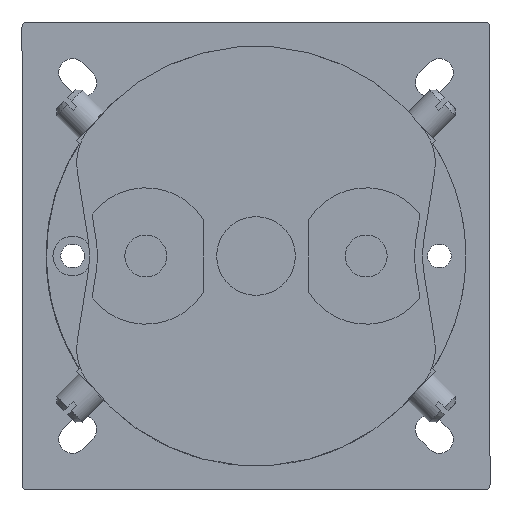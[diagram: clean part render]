
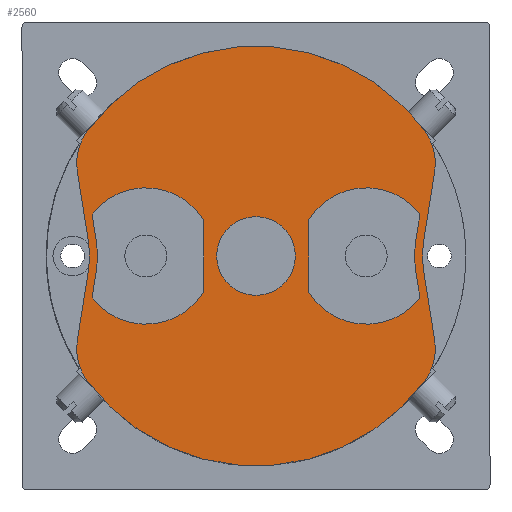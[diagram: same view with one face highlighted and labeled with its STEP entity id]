
A CAD part, front view. The second image highlights one B-rep face of the part: STEP entity #2560.
In plain terms, the highlighted planar face has unit normal (0, -1, 0).
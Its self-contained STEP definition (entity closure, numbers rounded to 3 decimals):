
#1375=FACE_BOUND('',#6776,.T.);
#1376=FACE_BOUND('',#6777,.T.);
#1377=FACE_BOUND('',#6778,.T.);
#1378=FACE_BOUND('',#6779,.T.);
#2560=ADVANCED_FACE('',(#1375,#1376,#1377,#1378),#3767,.T.);
#3767=PLANE('',#28723);
#6776=EDGE_LOOP('',(#13738,#13739,#13740,#13741,#13742,#13743));
#6777=EDGE_LOOP('',(#13744,#13745,#13746,#13747,#13748,#13749));
#6778=EDGE_LOOP('',(#13750,#13751,#13752,#13753,#13754,#13755,#13756,#13757,
#13758,#13759,#13760,#13761));
#6779=EDGE_LOOP('',(#13762));
#7794=CIRCLE('',#28695,7.5);
#7795=CIRCLE('',#28697,13.);
#7796=CIRCLE('',#28700,21.5);
#7797=CIRCLE('',#28703,13.);
#7798=CIRCLE('',#28706,21.5);
#7799=CIRCLE('',#28709,13.);
#7800=CIRCLE('',#28712,13.);
#7801=CIRCLE('',#28715,10.);
#7802=CIRCLE('',#28716,20.);
#7803=CIRCLE('',#28717,10.);
#7804=CIRCLE('',#28718,40.);
#7805=CIRCLE('',#28719,10.);
#7806=CIRCLE('',#28720,20.);
#7807=CIRCLE('',#28721,10.);
#7808=CIRCLE('',#28722,40.);
#13738=ORIENTED_EDGE('',*,*,#20837,.T.);
#13739=ORIENTED_EDGE('',*,*,#20835,.T.);
#13740=ORIENTED_EDGE('',*,*,#20833,.T.);
#13741=ORIENTED_EDGE('',*,*,#20831,.T.);
#13742=ORIENTED_EDGE('',*,*,#20829,.T.);
#13743=ORIENTED_EDGE('',*,*,#20826,.T.);
#13744=ORIENTED_EDGE('',*,*,#20825,.F.);
#13745=ORIENTED_EDGE('',*,*,#20823,.F.);
#13746=ORIENTED_EDGE('',*,*,#20821,.F.);
#13747=ORIENTED_EDGE('',*,*,#20819,.F.);
#13748=ORIENTED_EDGE('',*,*,#20817,.F.);
#13749=ORIENTED_EDGE('',*,*,#20814,.F.);
#13750=ORIENTED_EDGE('',*,*,#20838,.T.);
#13751=ORIENTED_EDGE('',*,*,#20839,.T.);
#13752=ORIENTED_EDGE('',*,*,#20840,.T.);
#13753=ORIENTED_EDGE('',*,*,#20841,.T.);
#13754=ORIENTED_EDGE('',*,*,#20842,.T.);
#13755=ORIENTED_EDGE('',*,*,#20843,.T.);
#13756=ORIENTED_EDGE('',*,*,#20844,.T.);
#13757=ORIENTED_EDGE('',*,*,#20845,.T.);
#13758=ORIENTED_EDGE('',*,*,#20846,.T.);
#13759=ORIENTED_EDGE('',*,*,#20847,.T.);
#13760=ORIENTED_EDGE('',*,*,#20848,.T.);
#13761=ORIENTED_EDGE('',*,*,#20849,.T.);
#13762=ORIENTED_EDGE('',*,*,#20813,.F.);
#17376=VERTEX_POINT('',#45050);
#17377=VERTEX_POINT('',#45053);
#17378=VERTEX_POINT('',#45054);
#17379=VERTEX_POINT('',#45059);
#17380=VERTEX_POINT('',#45063);
#17381=VERTEX_POINT('',#45067);
#17382=VERTEX_POINT('',#45071);
#17383=VERTEX_POINT('',#45077);
#17384=VERTEX_POINT('',#45078);
#17385=VERTEX_POINT('',#45083);
#17386=VERTEX_POINT('',#45087);
#17387=VERTEX_POINT('',#45091);
#17388=VERTEX_POINT('',#45095);
#17389=VERTEX_POINT('',#45101);
#17390=VERTEX_POINT('',#45102);
#17391=VERTEX_POINT('',#45104);
#17392=VERTEX_POINT('',#45106);
#17393=VERTEX_POINT('',#45108);
#17394=VERTEX_POINT('',#45110);
#17395=VERTEX_POINT('',#45112);
#17396=VERTEX_POINT('',#45114);
#17397=VERTEX_POINT('',#45116);
#17398=VERTEX_POINT('',#45118);
#17399=VERTEX_POINT('',#45120);
#17400=VERTEX_POINT('',#45122);
#20813=EDGE_CURVE('',#17376,#17376,#7794,.T.);
#20814=EDGE_CURVE('',#17377,#17378,#7795,.T.);
#20817=EDGE_CURVE('',#17378,#17379,#23670,.T.);
#20819=EDGE_CURVE('',#17379,#17380,#7796,.T.);
#20821=EDGE_CURVE('',#17380,#17381,#23673,.T.);
#20823=EDGE_CURVE('',#17381,#17382,#7797,.T.);
#20825=EDGE_CURVE('',#17382,#17377,#23676,.T.);
#20826=EDGE_CURVE('',#17383,#17384,#7798,.T.);
#20829=EDGE_CURVE('',#17385,#17383,#23679,.T.);
#20831=EDGE_CURVE('',#17386,#17385,#7799,.T.);
#20833=EDGE_CURVE('',#17387,#17386,#23682,.T.);
#20835=EDGE_CURVE('',#17388,#17387,#7800,.T.);
#20837=EDGE_CURVE('',#17384,#17388,#23685,.T.);
#20838=EDGE_CURVE('',#17389,#17390,#7801,.T.);
#20839=EDGE_CURVE('',#17390,#17391,#23686,.T.);
#20840=EDGE_CURVE('',#17391,#17392,#7802,.T.);
#20841=EDGE_CURVE('',#17392,#17393,#23687,.T.);
#20842=EDGE_CURVE('',#17393,#17394,#7803,.T.);
#20843=EDGE_CURVE('',#17394,#17395,#7804,.T.);
#20844=EDGE_CURVE('',#17395,#17396,#7805,.T.);
#20845=EDGE_CURVE('',#17396,#17397,#23688,.T.);
#20846=EDGE_CURVE('',#17397,#17398,#7806,.T.);
#20847=EDGE_CURVE('',#17398,#17399,#23689,.T.);
#20848=EDGE_CURVE('',#17399,#17400,#7807,.T.);
#20849=EDGE_CURVE('',#17400,#17389,#7808,.T.);
#23670=LINE('',#45058,#26325);
#23673=LINE('',#45066,#26328);
#23676=LINE('',#45074,#26331);
#23679=LINE('',#45082,#26334);
#23682=LINE('',#45090,#26337);
#23685=LINE('',#45098,#26340);
#23686=LINE('',#45103,#26341);
#23687=LINE('',#45107,#26342);
#23688=LINE('',#45115,#26343);
#23689=LINE('',#45119,#26344);
#26325=VECTOR('',#35013,1.);
#26328=VECTOR('',#35022,1.);
#26331=VECTOR('',#35031,1.);
#26334=VECTOR('',#35040,1.);
#26337=VECTOR('',#35049,1.);
#26340=VECTOR('',#35058,1.);
#26341=VECTOR('',#35063,1.);
#26342=VECTOR('',#35066,1.);
#26343=VECTOR('',#35073,1.);
#26344=VECTOR('',#35076,1.);
#28695=AXIS2_PLACEMENT_3D('',#45049,#35003,#35004);
#28697=AXIS2_PLACEMENT_3D('',#45052,#35007,#35008);
#28700=AXIS2_PLACEMENT_3D('',#45062,#35017,#35018);
#28703=AXIS2_PLACEMENT_3D('',#45070,#35026,#35027);
#28706=AXIS2_PLACEMENT_3D('',#45076,#35034,#35035);
#28709=AXIS2_PLACEMENT_3D('',#45086,#35044,#35045);
#28712=AXIS2_PLACEMENT_3D('',#45094,#35053,#35054);
#28715=AXIS2_PLACEMENT_3D('',#45100,#35061,#35062);
#28716=AXIS2_PLACEMENT_3D('',#45105,#35064,#35065);
#28717=AXIS2_PLACEMENT_3D('',#45109,#35067,#35068);
#28718=AXIS2_PLACEMENT_3D('',#45111,#35069,#35070);
#28719=AXIS2_PLACEMENT_3D('',#45113,#35071,#35072);
#28720=AXIS2_PLACEMENT_3D('',#45117,#35074,#35075);
#28721=AXIS2_PLACEMENT_3D('',#45121,#35077,#35078);
#28722=AXIS2_PLACEMENT_3D('',#45123,#35079,#35080);
#28723=AXIS2_PLACEMENT_3D('',#45124,#35081,#35082);
#35003=DIRECTION('',(0.,-1.,0.));
#35004=DIRECTION('',(0.,0.,-1.));
#35007=DIRECTION('',(0.,-1.,0.));
#35008=DIRECTION('',(1.,0.,0.));
#35013=DIRECTION('',(-0.156,0.,0.988));
#35017=DIRECTION('',(0.,1.,0.));
#35018=DIRECTION('',(1.,0.,0.));
#35022=DIRECTION('',(0.156,0.,0.988));
#35026=DIRECTION('',(0.,-1.,0.));
#35027=DIRECTION('',(1.,0.,0.));
#35031=DIRECTION('',(0.,0.,-1.));
#35034=DIRECTION('',(0.,-1.,0.));
#35035=DIRECTION('',(1.,0.,0.));
#35040=DIRECTION('',(0.156,0.,0.988));
#35044=DIRECTION('',(0.,1.,0.));
#35045=DIRECTION('',(1.,0.,0.));
#35049=DIRECTION('',(0.,0.,-1.));
#35053=DIRECTION('',(0.,1.,0.));
#35054=DIRECTION('',(1.,0.,0.));
#35058=DIRECTION('',(-0.156,0.,0.988));
#35061=DIRECTION('',(0.,-1.,0.));
#35062=DIRECTION('',(0.,0.,-1.));
#35063=DIRECTION('',(0.156,0.,-0.988));
#35064=DIRECTION('',(0.,1.,0.));
#35065=DIRECTION('',(0.,0.,-1.));
#35066=DIRECTION('',(-0.156,0.,-0.988));
#35067=DIRECTION('',(0.,-1.,0.));
#35068=DIRECTION('',(0.,0.,-1.));
#35069=DIRECTION('',(0.,-1.,0.));
#35070=DIRECTION('',(0.,0.,-1.));
#35071=DIRECTION('',(0.,-1.,0.));
#35072=DIRECTION('',(0.,0.,-1.));
#35073=DIRECTION('',(-0.156,0.,0.988));
#35074=DIRECTION('',(0.,1.,0.));
#35075=DIRECTION('',(0.,0.,-1.));
#35076=DIRECTION('',(0.156,0.,0.988));
#35077=DIRECTION('',(0.,-1.,0.));
#35078=DIRECTION('',(0.,0.,-1.));
#35079=DIRECTION('',(0.,-1.,0.));
#35080=DIRECTION('',(0.,0.,-1.));
#35081=DIRECTION('',(0.,-1.,0.));
#35082=DIRECTION('',(0.,0.,-1.));
#45049=CARTESIAN_POINT('',(0.,-188.5,0.));
#45050=CARTESIAN_POINT('',(0.,-188.5,-7.5));
#45052=CARTESIAN_POINT('',(21.031,-188.5,0.));
#45053=CARTESIAN_POINT('',(10.031,-188.5,-6.928));
#45054=CARTESIAN_POINT('',(31.253,-188.5,-8.032));
#45058=CARTESIAN_POINT('',(31.253,-188.5,-8.032));
#45059=CARTESIAN_POINT('',(30.514,-188.5,-3.363));
#45062=CARTESIAN_POINT('',(51.749,-188.5,0.));
#45063=CARTESIAN_POINT('',(30.514,-188.5,3.363));
#45066=CARTESIAN_POINT('',(30.514,-188.5,3.363));
#45067=CARTESIAN_POINT('',(31.253,-188.5,8.032));
#45070=CARTESIAN_POINT('',(21.031,-188.5,0.));
#45071=CARTESIAN_POINT('',(10.031,-188.5,6.928));
#45074=CARTESIAN_POINT('',(10.031,-188.5,6.928));
#45076=CARTESIAN_POINT('',(-51.749,-188.5,0.));
#45077=CARTESIAN_POINT('',(-30.514,-188.5,-3.363));
#45078=CARTESIAN_POINT('',(-30.514,-188.5,3.363));
#45082=CARTESIAN_POINT('',(-31.248,-188.5,-7.998));
#45083=CARTESIAN_POINT('',(-31.248,-188.5,-7.998));
#45086=CARTESIAN_POINT('',(-21.,-188.5,0.));
#45087=CARTESIAN_POINT('',(-10.,-188.5,-6.928));
#45090=CARTESIAN_POINT('',(-10.,-188.5,6.928));
#45091=CARTESIAN_POINT('',(-10.,-188.5,6.928));
#45094=CARTESIAN_POINT('',(-21.,-188.5,0.));
#45095=CARTESIAN_POINT('',(-31.248,-188.5,7.998));
#45098=CARTESIAN_POINT('',(-30.514,-188.5,3.363));
#45100=CARTESIAN_POINT('',(-24.186,-188.5,17.749));
#45101=CARTESIAN_POINT('',(-32.249,-188.5,23.665));
#45102=CARTESIAN_POINT('',(-34.063,-188.5,16.184));
#45103=CARTESIAN_POINT('',(-34.063,-188.5,16.184));
#45104=CARTESIAN_POINT('',(-31.996,-188.5,3.129));
#45105=CARTESIAN_POINT('',(-51.749,-188.5,0.));
#45106=CARTESIAN_POINT('',(-31.996,-188.5,-3.129));
#45107=CARTESIAN_POINT('',(-31.996,-188.5,-3.129));
#45108=CARTESIAN_POINT('',(-34.063,-188.5,-16.184));
#45109=CARTESIAN_POINT('',(-24.186,-188.5,-17.749));
#45110=CARTESIAN_POINT('',(-32.249,-188.5,-23.665));
#45111=CARTESIAN_POINT('',(0.,-188.5,0.));
#45112=CARTESIAN_POINT('',(32.249,-188.5,-23.665));
#45113=CARTESIAN_POINT('',(24.186,-188.5,-17.749));
#45114=CARTESIAN_POINT('',(34.063,-188.5,-16.184));
#45115=CARTESIAN_POINT('',(34.063,-188.5,-16.184));
#45116=CARTESIAN_POINT('',(31.996,-188.5,-3.129));
#45117=CARTESIAN_POINT('',(51.749,-188.5,0.));
#45118=CARTESIAN_POINT('',(31.996,-188.5,3.129));
#45119=CARTESIAN_POINT('',(31.996,-188.5,3.129));
#45120=CARTESIAN_POINT('',(34.063,-188.5,16.184));
#45121=CARTESIAN_POINT('',(24.186,-188.5,17.749));
#45122=CARTESIAN_POINT('',(32.249,-188.5,23.665));
#45123=CARTESIAN_POINT('',(0.,-188.5,0.));
#45124=CARTESIAN_POINT('',(-24.186,-188.5,17.749));
